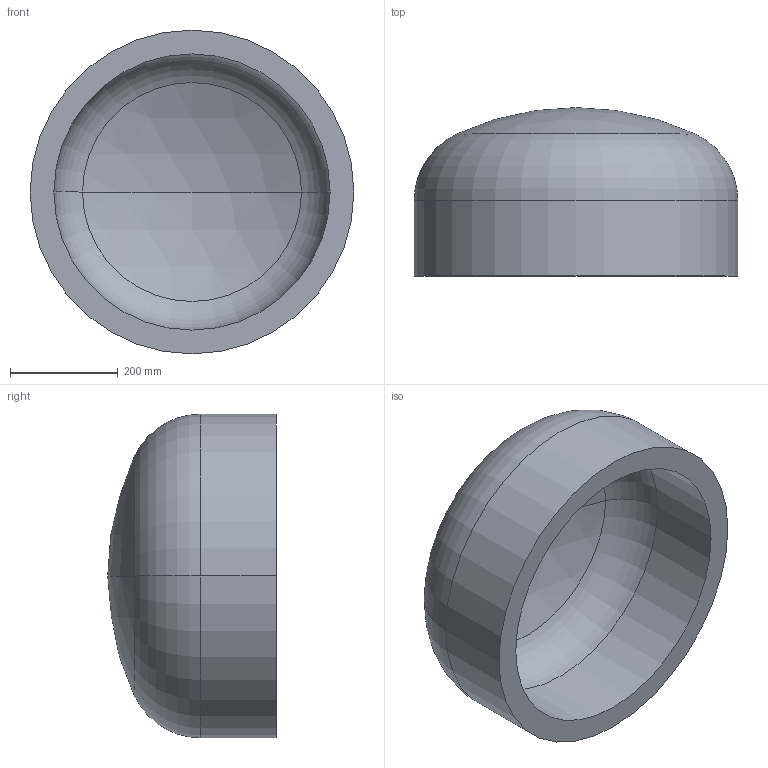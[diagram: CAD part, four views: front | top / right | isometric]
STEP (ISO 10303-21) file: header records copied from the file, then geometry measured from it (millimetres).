
FILE_DESCRIPTION (( 'STEP AP203' ), '1' );
FILE_NAME ('DIN 28013 Korbbogenform_-_Boden DIN 28013 - 600 x 140 - I - s=44.step', '2016-07-01T08:00:52', ( '' ), ( '' ), 'SwSTEP 2.0', 'SolidWorks 2013', '' );
FILE_SCHEMA (( 'CONFIG_CONTROL_DESIGN' ));
Length unit declared in the file: millimetre
Products named in the file (1): DIN 28013 Korbbogenform_-_Boden DIN 28013 - 600 x 140 - I - s=44
Bounding box: 600 x 312.36 x 600 mm (x, y, z)
Volume: 26453390.9 mm3; surface area: 1283337.4 mm2
Topology: 1 solids, 1 shells, 13 faces, 24 edges, 14 vertices
Faces by surface type: torus 4, cylinder 4, sphere 4, plane 1
Entity records: 407 total; most frequent: DIRECTION 72, CARTESIAN_POINT 52, ORIENTED_EDGE 48, AXIS2_PLACEMENT_3D 34, EDGE_CURVE 24, CIRCLE 20, EDGE_LOOP 14, VERTEX_POINT 14
